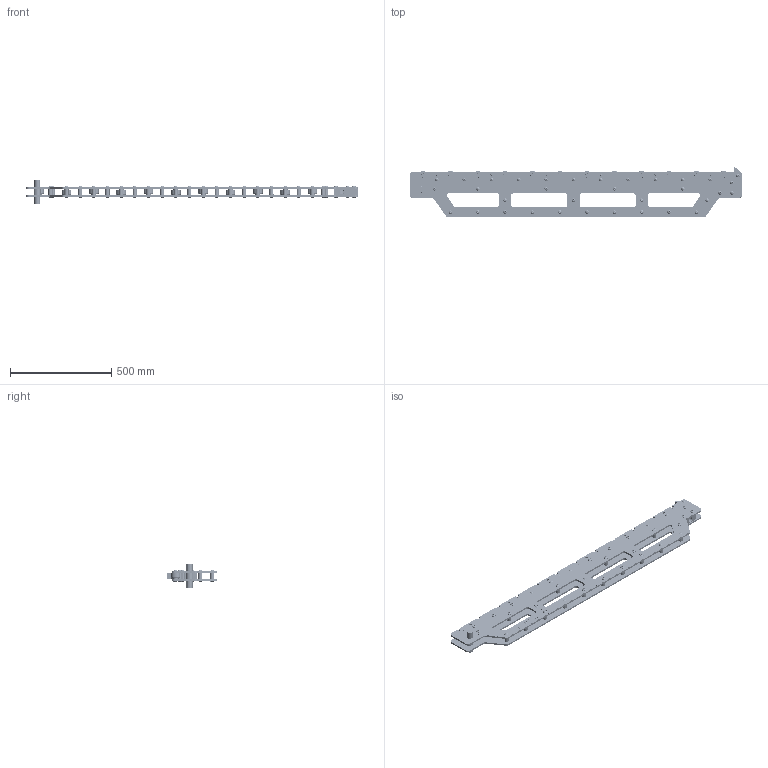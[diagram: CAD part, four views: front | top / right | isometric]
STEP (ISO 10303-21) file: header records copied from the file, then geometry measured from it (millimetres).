
FILE_DESCRIPTION(/* description */ ('SCREW M10x20'),/* implementation_level */ '2;1');
FILE_NAME(/* name */ 'C:\Users\jaccow\AppData\Local\Temp\Cadac\NetworkPub\step\FB937-950.iam.stp',/* time_stamp */ '2017-12-13T15:20:02+01:00',/* author */ ('Cadenas PARTsolutions'),/* organization */ ('BOSSARD'),/* preprocessor_version */ 'ST-DEVELOPER v16.1',/* originating_system */ 'Autodesk Inventor 2016',/* authorisation */ '');
FILE_SCHEMA (('AUTOMOTIVE_DESIGN { 1 0 10303 214 3 1 1 }'));
Length unit declared in the file: millimetre
Products named in the file (15): CCE1020-028-9A; DQ1397-120; CAE1100-1081A; FB938-101; FB622-186; FB620-044; FB760-104; FB621-104; FB934-690; FB703-101; FB939-026; FB940-026; FB759-104; DQ1513-281; FB937-950
Assembly tree (151 placements, depth 2):
  FB937-950
    CCE1020-028-9A  x74
    DQ1397-120  x6
    CAE1100-1081A  x6
    FB938-101  x2
    FB622-186  x31
    FB620-044
    FB760-104
    FB621-104
    FB934-690
    FB703-101  x2
    FB939-026
    FB940-026
    FB759-104  x12
    DQ1513-281  x12
Bounding box: 1640 x 248.56 x 120 mm (x, y, z)
Volume: 5685038 mm3; surface area: 2191016.8 mm2
Topology: 205 solids, 205 shells, 5332 faces, 12369 edges, 7945 vertices
Faces by surface type: plane 2880, cylinder 807, cone 736, bspline 691, torus 218
Full cylindrical faces by diameter (mm): 1.541 x12, 3.4 x12, 8.376 x40, 10 x74, 10.5 x6, 11.5 x78, 13.5 x6, 15.95 x1, 16 x2, 16.1 x1, 20 x55, 21 x6, 21.5 x1, 22 x74, 25 x12, 25.1 x12, 26 x22, 30 x4, 31.9 x12, 35 x1, 36.5 x48, 47 x12
Entity records: 85039 total; most frequent: CARTESIAN_POINT 23810, ORIENTED_EDGE 13168, DIRECTION 10016, EDGE_CURVE 6575, LINE 4752, VECTOR 4752, VERTEX_POINT 4452, EDGE_LOOP 3058
